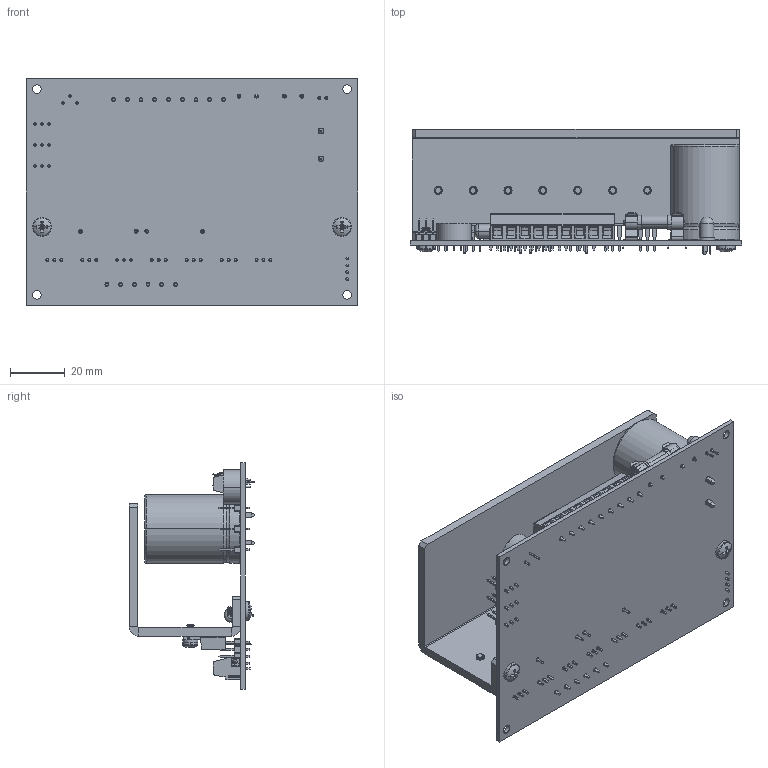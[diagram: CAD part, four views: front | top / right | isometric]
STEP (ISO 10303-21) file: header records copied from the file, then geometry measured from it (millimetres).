
FILE_DESCRIPTION (( 'STEP AP214' ), '1' );
FILE_NAME ('TM4500.STEP', '2009-09-17T21:02:39', ( 'Tim Raines' ), ( 'Anaheim Automation' ), 'SwSTEP 2.0', 'SolidWorks 2009', '' );
FILE_SCHEMA (( 'AUTOMOTIVE_DESIGN' ));
Length unit declared in the file: millimetre
Products named in the file (18): Pan Cross Head_AI_CR-PHMS 0.112-40x0.25x0.25-S; WSH-KE3049; TM4500; CLP-44FH052; RES-3W-.05; AA3920PCB; LED-SPR5731_LED-SPR5731-RED; POT-93PR1K; FUS-5MMTYPE; CON-929834-01-03; 1729089; 1729050; Heat Sink, TM4500; CAP-0081; CON-929834-04; TRS-BDW93C; VRG-LM317T; Pan Cross Head_AI_CR-PHMS 0.138-32x0.25x0.25-S
Assembly tree (39 placements, depth 2):
  TM4500
    FUS-5MMTYPE
    WSH-KE3049  x7
    Pan Cross Head_AI_CR-PHMS 0.112-40x0.25x0.25-S  x7
    LED-SPR5731_LED-SPR5731-RED
    Pan Cross Head_AI_CR-PHMS 0.138-32x0.25x0.25-S  x2
    CON-929834-01-03  x3
    CON-929834-04
    CLP-44FH052  x2
    TRS-BDW93C  x6
    CAP-0081
    VRG-LM317T
    RES-3W-.05  x2
    AA3920PCB
    POT-93PR1K
    Heat Sink, TM4500
    1729089
    1729050
Bounding box: 120.65 x 45.72 x 82.55 mm (x, y, z)
Volume: 74853.9 mm3; surface area: 58584.1 mm2
Topology: 39 solids, 39 shells, 2776 faces, 6898 edges, 4375 vertices
Faces by surface type: plane 1584, cylinder 692, cone 370, bspline 59, torus 52, sphere 19
Entity records: 68734 total; most frequent: CARTESIAN_POINT 12051, DIRECTION 8276, ORIENTED_EDGE 8076, EDGE_CURVE 4038, AXIS2_PLACEMENT_3D 2771, VECTOR 2734, LINE 2734, VERTEX_POINT 2586
